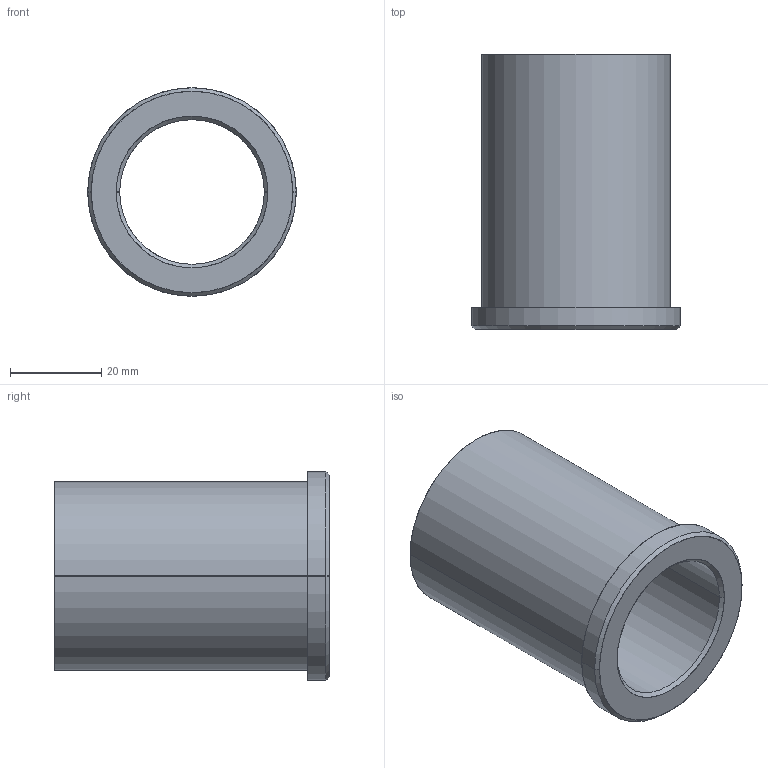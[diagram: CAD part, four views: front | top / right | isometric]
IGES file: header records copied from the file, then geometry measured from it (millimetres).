
Start section: SolidWorks IGES file using analytic representation for surfaces
Global section: file name: C:\Users\Ryan\Documents\PCS\Shoulder Bushings - Bronze Plated\LBB 10-23.igs; native system: SolidWorks 2009; preprocessor: SolidWorks 2009; author: Ryan; date: 140913.211800; units: inch
Bounding box: 45.77 x 60.33 x 45.77 mm (x, y, z)
Surface area: 15444.4 mm2 (no closed solid volume)
Topology: 0 solids, 0 shells, 15 faces, 432 edges, 432 vertices
Faces by surface type: revolution 10, bspline 5
